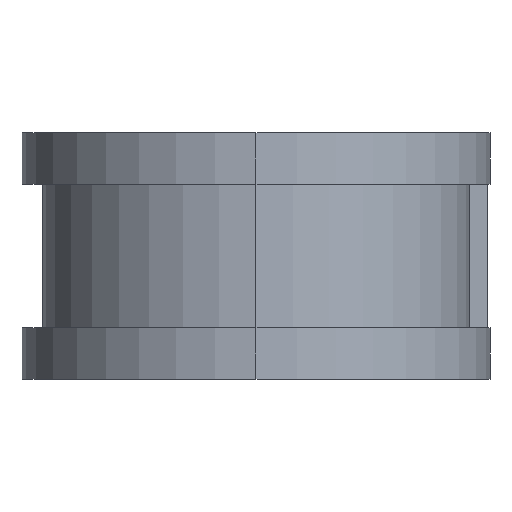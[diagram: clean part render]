
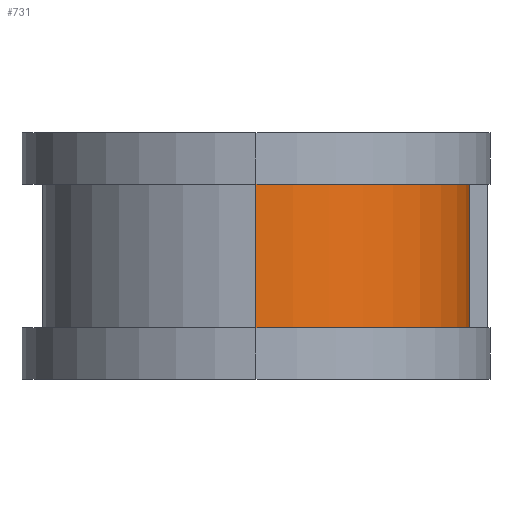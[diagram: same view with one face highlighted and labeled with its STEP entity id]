
A CAD part, left-side view. The second image highlights one B-rep face of the part: STEP entity #731.
In plain terms, the highlighted cylindrical face has radius 20.8 mm (diameter 41.6 mm), a partial arc.
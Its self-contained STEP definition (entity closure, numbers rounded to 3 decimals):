
#19 = DIRECTION ( 'NONE',  ( 0., 0., -1. ) ) ;
#42 = DIRECTION ( 'NONE',  ( 0., 0., -1. ) ) ;
#43 = DIRECTION ( 'NONE',  ( 0., -1., 0. ) ) ;
#68 = CARTESIAN_POINT ( 'NONE',  ( 0., -0.8, -7. ) ) ;
#109 = LINE ( 'NONE', #252, #348 ) ;
#170 = CYLINDRICAL_SURFACE ( 'NONE', #801, 20.8 ) ;
#190 = VERTEX_POINT ( 'NONE', #1483 ) ;
#234 = EDGE_CURVE ( 'NONE', #1537, #190, #539, .T. ) ;
#239 = AXIS2_PLACEMENT_3D ( 'NONE', #502, #42, #747 ) ;
#252 = CARTESIAN_POINT ( 'NONE',  ( -20.8, 20., 10. ) ) ;
#276 = CARTESIAN_POINT ( 'NONE',  ( 0., -0.8, 7. ) ) ;
#348 = VECTOR ( 'NONE', #19, 1000. ) ;
#408 = DIRECTION ( 'NONE',  ( 0., 0., -1. ) ) ;
#424 = DIRECTION ( 'NONE',  ( 0., 0., -1. ) ) ;
#502 = CARTESIAN_POINT ( 'NONE',  ( 0., 20., 7. ) ) ;
#514 = DIRECTION ( 'NONE',  ( -1., 0., 0. ) ) ;
#539 = CIRCLE ( 'NONE', #1352, 20.8 ) ;
#541 = LINE ( 'NONE', #1008, #580 ) ;
#580 = VECTOR ( 'NONE', #408, 1000. ) ;
#590 = CARTESIAN_POINT ( 'NONE',  ( -20.8, 20., 7. ) ) ;
#654 = CARTESIAN_POINT ( 'NONE',  ( 0., 20., 10. ) ) ;
#657 = ORIENTED_EDGE ( 'NONE', *, *, #234, .F. ) ;
#731 = ADVANCED_FACE ( 'NONE', ( #1255 ), #170, .T. ) ;
#740 = ORIENTED_EDGE ( 'NONE', *, *, #811, .F. ) ;
#743 = CIRCLE ( 'NONE', #239, 20.8 ) ;
#747 = DIRECTION ( 'NONE',  ( 0., -1., 0. ) ) ;
#788 = VERTEX_POINT ( 'NONE', #276 ) ;
#801 = AXIS2_PLACEMENT_3D ( 'NONE', #654, #991, #514 ) ;
#811 = EDGE_CURVE ( 'NONE', #788, #1537, #541, .T. ) ;
#870 = CARTESIAN_POINT ( 'NONE',  ( 0., 20., -7. ) ) ;
#991 = DIRECTION ( 'NONE',  ( 0., 0., -1. ) ) ;
#992 = EDGE_CURVE ( 'NONE', #1202, #190, #109, .T. ) ;
#1008 = CARTESIAN_POINT ( 'NONE',  ( 0., -0.8, 10. ) ) ;
#1121 = ORIENTED_EDGE ( 'NONE', *, *, #992, .T. ) ;
#1202 = VERTEX_POINT ( 'NONE', #590 ) ;
#1255 = FACE_OUTER_BOUND ( 'NONE', #1303, .T. ) ;
#1273 = ORIENTED_EDGE ( 'NONE', *, *, #1331, .T. ) ;
#1303 = EDGE_LOOP ( 'NONE', ( #1273, #1121, #657, #740 ) ) ;
#1331 = EDGE_CURVE ( 'NONE', #788, #1202, #743, .T. ) ;
#1352 = AXIS2_PLACEMENT_3D ( 'NONE', #870, #424, #43 ) ;
#1483 = CARTESIAN_POINT ( 'NONE',  ( -20.8, 20., -7. ) ) ;
#1537 = VERTEX_POINT ( 'NONE', #68 ) ;
